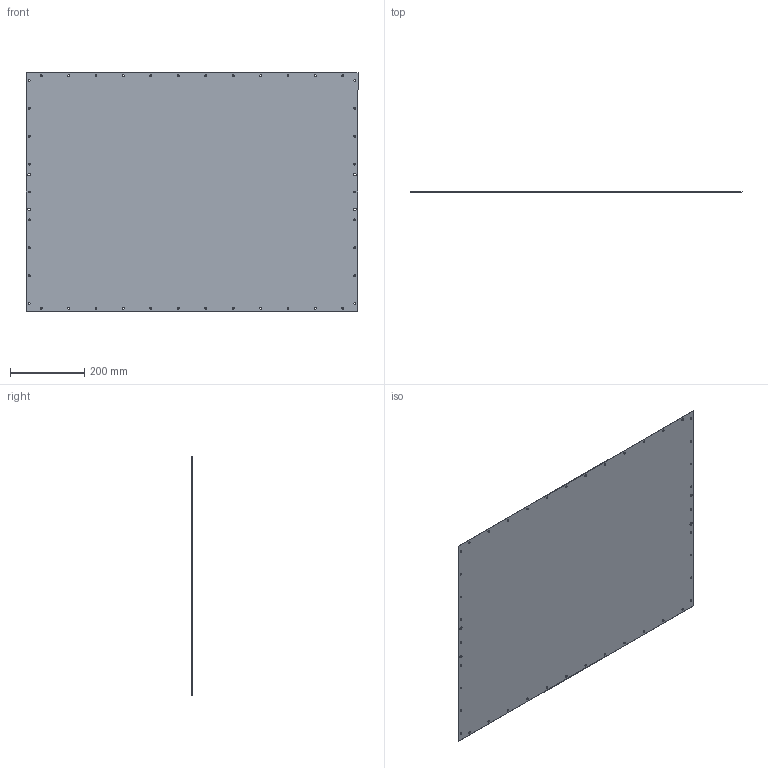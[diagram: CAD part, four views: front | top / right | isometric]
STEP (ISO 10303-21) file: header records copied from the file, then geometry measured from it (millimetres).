
FILE_DESCRIPTION (( 'STEP AP203' ), '1' );
FILE_NAME ('TOP_revB.STEP', '2024-02-22T10:51:50', ( '' ), ( '' ), 'SwSTEP 2.0', 'SolidWorks 2021', '' );
FILE_SCHEMA (( 'CONFIG_CONTROL_DESIGN' ));
Length unit declared in the file: millimetre
Products named in the file (1): TOP_revB
Bounding box: 892 x 0.79 x 642 mm (x, y, z)
Volume: 453757.2 mm3; surface area: 1146358.9 mm2
Topology: 1 solids, 1 shells, 98 faces, 288 edges, 192 vertices
Faces by surface type: cylinder 92, plane 6
Entity records: 3637 total; most frequent: DIRECTION 670, CARTESIAN_POINT 579, ORIENTED_EDGE 576, EDGE_CURVE 288, AXIS2_PLACEMENT_3D 283, VERTEX_POINT 192, EDGE_LOOP 190, CIRCLE 184
